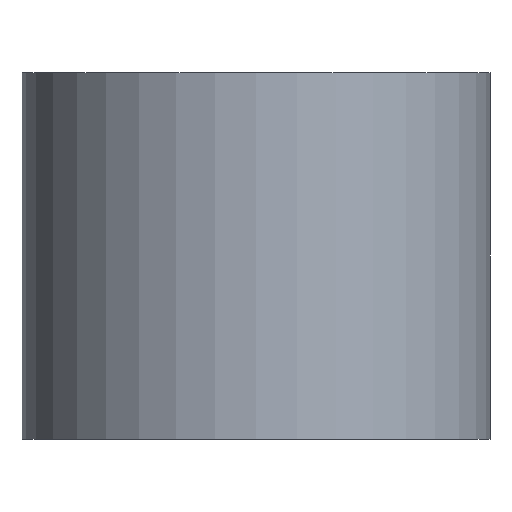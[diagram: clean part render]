
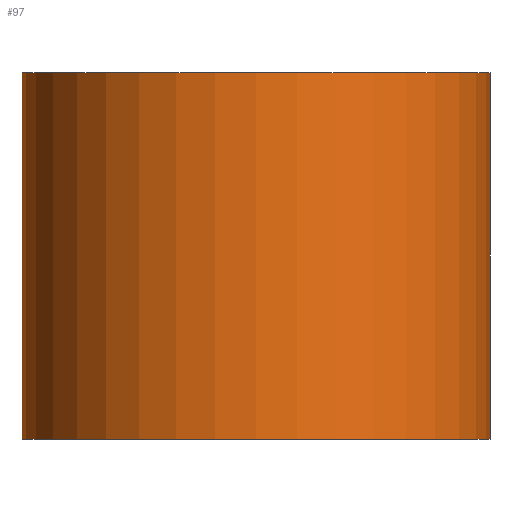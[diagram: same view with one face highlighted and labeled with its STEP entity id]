
A CAD part, front view. The second image highlights one B-rep face of the part: STEP entity #97.
In plain terms, the highlighted cylindrical face has radius 14.5 mm (diameter 29 mm), a full revolution.
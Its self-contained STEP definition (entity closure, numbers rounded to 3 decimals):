
#58=CARTESIAN_POINT('',(14.5,0.,-21.3));
#59=VERTEX_POINT('',#58);
#60=CARTESIAN_POINT('',(0.,0.,-21.3));
#61=DIRECTION('',(1.,0.,0.));
#62=DIRECTION('',(0.,0.,1.));
#63=AXIS2_PLACEMENT_3D('',#60,#62,#61);
#64=CIRCLE('',#63,14.5);
#65=EDGE_CURVE('',#59,#59,#64,.T.);
#73=CARTESIAN_POINT('',(0.,0.,-21.3));
#74=DIRECTION('',(1.,0.,0.));
#75=DIRECTION('',(0.,0.,1.));
#76=AXIS2_PLACEMENT_3D('',#73,#75,#74);
#77=CYLINDRICAL_SURFACE('',#76,14.5);
#78=CARTESIAN_POINT('',(14.5,0.,1.4));
#79=VERTEX_POINT('',#78);
#80=CARTESIAN_POINT('',(14.5,0.,-21.3));
#81=DIRECTION('',(0.,0.,1.));
#82=VECTOR('',#81,22.7);
#83=LINE('',#80,#82);
#84=EDGE_CURVE('',#59,#79,#83,.T.);
#85=ORIENTED_EDGE('E2',*,*,#84,.T.);
#86=CARTESIAN_POINT('',(0.,0.,1.4));
#87=DIRECTION('',(1.,0.,-0.));
#88=DIRECTION('',(0.,0.,1.));
#89=AXIS2_PLACEMENT_3D('',#86,#88,#87);
#90=CIRCLE('',#89,14.5);
#91=EDGE_CURVE('',#79,#79,#90,.T.);
#92=ORIENTED_EDGE('E6',*,*,#91,.T.);
#93=ORIENTED_EDGE('E6',*,*,#84,.F.);
#94=ORIENTED_EDGE('E6',*,*,#65,.F.);
#95=EDGE_LOOP('',(#85,#92,#93,#94));
#96=FACE_OUTER_BOUND('',#95,.F.);
#97=ADVANCED_FACE('F4',(#96),#77,.T.);
